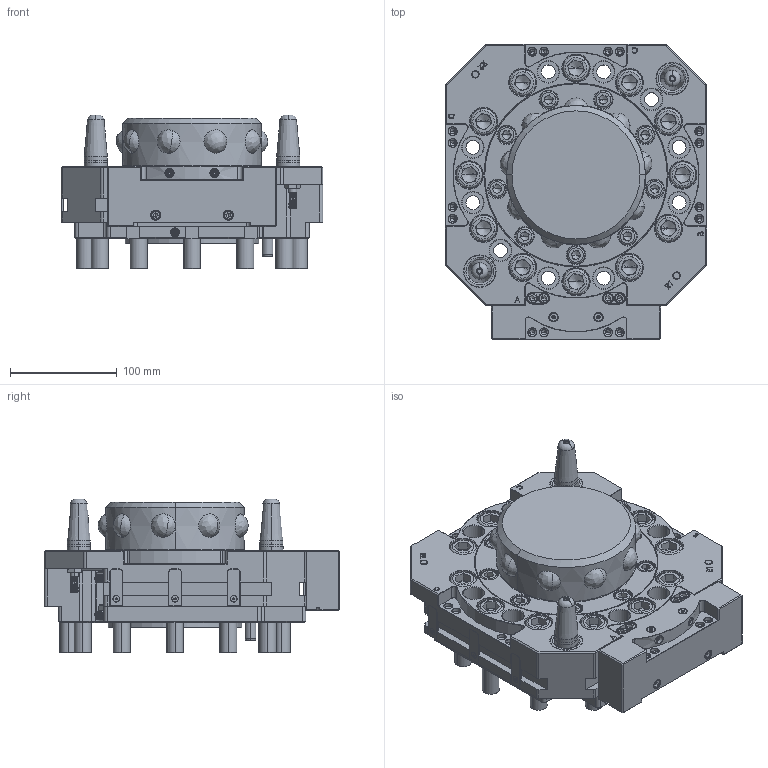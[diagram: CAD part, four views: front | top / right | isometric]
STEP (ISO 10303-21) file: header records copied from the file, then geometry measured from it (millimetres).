
FILE_DESCRIPTION (( 'STEP AP203' ), '1' );
FILE_NAME ('QCA-S500R-SP.STEP', '2024-03-20T03:11:09', ( '微软用户' ), ( '微软中国' ), 'SwSTEP 2.0', 'SolidWorks 2018', '' );
FILE_SCHEMA (( 'CONFIG_CONTROL_DESIGN' ));
Products named in the file (1): QCA-S500R-SP
Bounding box: 245 x 276.8 x 144.2 mm (x, y, z)
Surface area: 448239.3 mm2 (no closed solid volume)
Topology: 0 solids, 65 shells, 3534 faces, 8574 edges, 5194 vertices
Faces by surface type: plane 1492, cylinder 935, cone 884, bspline 215, torus 8
Entity records: 119391 total; most frequent: CARTESIAN_POINT 37044, DIRECTION 17681, ORIENTED_EDGE 16722, EDGE_CURVE 8370, AXIS2_PLACEMENT_3D 6550, VERTEX_POINT 5196, LINE 4581, VECTOR 4581
